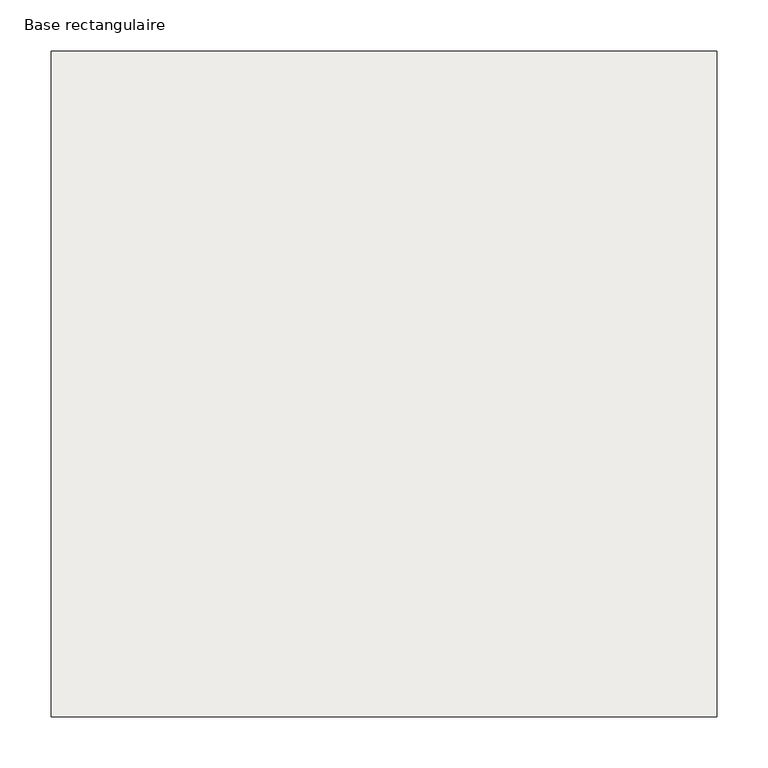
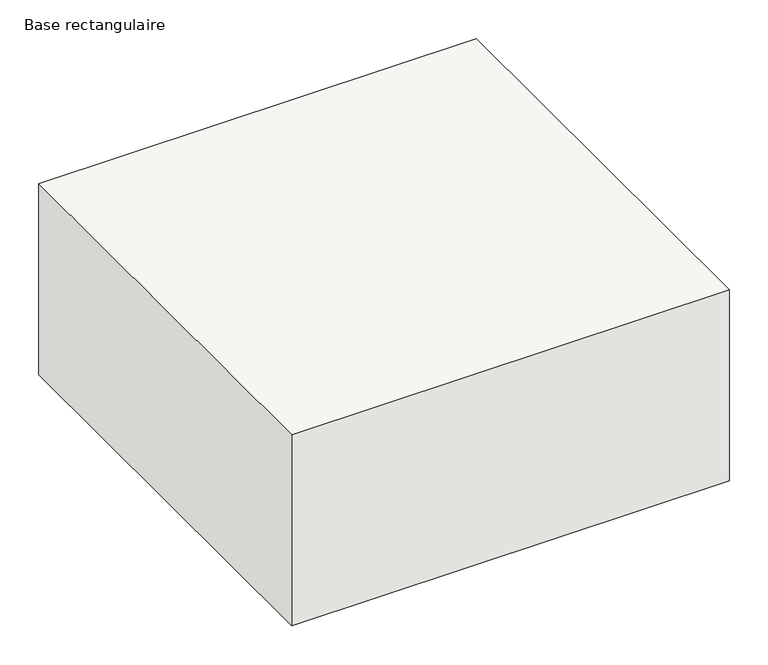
"""IFC4 building model written with IfcOpenShell, lengths in millimetres: slab geometry, Base rectangulaire : S1 650mm x 650mm x 300mm ht."""

from ifc_helpers import new_model, si_unit, frame, origin, place, context, project, spatial, polyline, outline, extrude, source, transform, mapped, element, save


def base_rectangulaire_f34d6cdc(model_context):
    return source(origin(), model_context, "Body", "SweptSolid", [
        extrude(outline(polyline([(325.0, 325.0), (325.0, -325.0), (-325.0, -325.0), (-325.0, 325.0), (325.0, 325.0)])), frame((0.0, 0.0, -300.0), z_axis=(0.0, 0.0, 1.0), x_axis=(1.0, 0.0, 0.0)), (0.0, 0.0, 1.0), 300.0),
        extrude(outline(polyline([(325.0, 325.0), (325.0, -325.0), (-325.0, -325.0), (-325.0, 325.0), (325.0, 325.0)])), frame((0.0, 0.0, -300.0), z_axis=(0.0, 0.0, 1.0), x_axis=(1.0, 0.0, 0.0)), (0.0, 0.0, 1.0), 300.0),
    ])


if __name__ == "__main__":
    model = new_model("IFC4")
    model_context = context("Model", 3, world=origin())
    ifc_project = project(units=[si_unit("LENGTHUNIT", "METRE", prefix="MILLI")], contexts=[model_context])
    site = spatial("IfcSite", under=ifc_project)
    building = spatial("IfcBuilding", under=site)
    placement = place(None, origin())
    base_rectangulaire_shape = base_rectangulaire_f34d6cdc(model_context)
    element("IfcSlab", 1, ObjectType="Base rectangulaire : S1 650mm x 650mm x 300mm ht", at=placement, inside=building, context=model_context, shape_type="MappedRepresentation", body=[
        mapped(base_rectangulaire_shape, transform((0.0, 0.0, 0.0), x_axis=(1.0, 0.0, 0.0), y_axis=(0.0, 1.0, 0.0), z_axis=(0.0, 0.0, 1.0))),
    ])
    save(model, "model.ifc")
